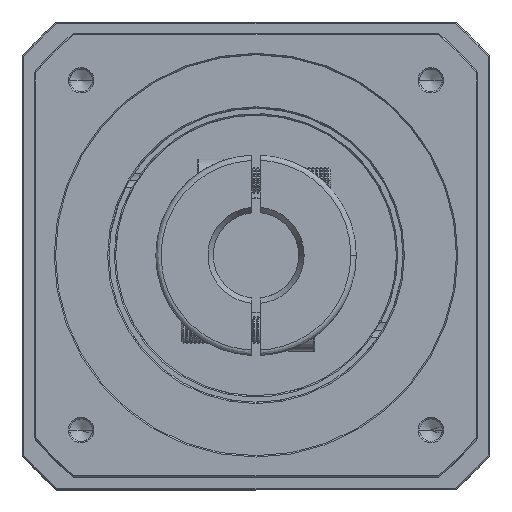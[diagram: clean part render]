
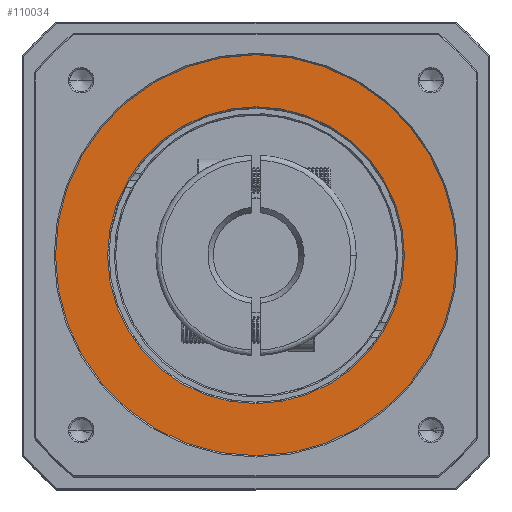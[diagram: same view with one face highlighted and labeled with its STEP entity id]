
A CAD part, top view. The second image highlights one B-rep face of the part: STEP entity #110034.
In plain terms, the highlighted planar face has unit normal (0, 0, 1).
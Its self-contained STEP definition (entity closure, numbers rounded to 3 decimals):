
#547 = CARTESIAN_POINT ( 'NONE',  ( -162.479, 83.421, 22.621 ) ) ;
#4756 = VERTEX_POINT ( 'NONE', #38361 ) ;
#5422 = DIRECTION ( 'NONE',  ( 1., 0., 0. ) ) ;
#9750 = ORIENTED_EDGE ( 'NONE', *, *, #54659, .T. ) ;
#11947 = CIRCLE ( 'NONE', #12220, 75. ) ;
#12220 = AXIS2_PLACEMENT_3D ( 'NONE', #58070, #106746, #88097 ) ;
#13351 = ORIENTED_EDGE ( 'NONE', *, *, #116811, .T. ) ;
#14993 = ORIENTED_EDGE ( 'NONE', *, *, #89933, .T. ) ;
#16094 = EDGE_LOOP ( 'NONE', ( #24689, #9750 ) ) ;
#17975 = DIRECTION ( 'NONE',  ( 1., 0., 0. ) ) ;
#21074 = AXIS2_PLACEMENT_3D ( 'NONE', #97662, #106767, #17975 ) ;
#24689 = ORIENTED_EDGE ( 'NONE', *, *, #69753, .T. ) ;
#25794 = CIRCLE ( 'NONE', #123986, 55.5 ) ;
#26777 = CARTESIAN_POINT ( 'NONE',  ( -31.979, 83.421, 22.621 ) ) ;
#28715 = FACE_BOUND ( 'NONE', #16094, .T. ) ;
#38361 = CARTESIAN_POINT ( 'NONE',  ( -142.979, 83.421, 22.621 ) ) ;
#40394 = DIRECTION ( 'NONE',  ( 0., 0., -1. ) ) ;
#45903 = CIRCLE ( 'NONE', #59537, 75. ) ;
#50409 = AXIS2_PLACEMENT_3D ( 'NONE', #54647, #64630, #5422 ) ;
#51873 = CIRCLE ( 'NONE', #50409, 55.5 ) ;
#54409 = DIRECTION ( 'NONE',  ( 1., 0., 0. ) ) ;
#54647 = CARTESIAN_POINT ( 'NONE',  ( -87.479, 83.421, 22.621 ) ) ;
#54659 = EDGE_CURVE ( 'NONE', #4756, #75361, #25794, .T. ) ;
#55260 = CARTESIAN_POINT ( 'NONE',  ( -87.479, 83.421, 22.621 ) ) ;
#58070 = CARTESIAN_POINT ( 'NONE',  ( -87.479, 83.421, 22.621 ) ) ;
#59537 = AXIS2_PLACEMENT_3D ( 'NONE', #55260, #125529, #54409 ) ;
#63877 = VERTEX_POINT ( 'NONE', #547 ) ;
#64630 = DIRECTION ( 'NONE',  ( 0., 0., -1. ) ) ;
#65544 = CARTESIAN_POINT ( 'NONE',  ( -12.479, 83.421, 22.621 ) ) ;
#69753 = EDGE_CURVE ( 'NONE', #75361, #4756, #51873, .T. ) ;
#75361 = VERTEX_POINT ( 'NONE', #26777 ) ;
#79429 = DIRECTION ( 'NONE',  ( 1., 0., 0. ) ) ;
#86032 = FACE_OUTER_BOUND ( 'NONE', #124872, .T. ) ;
#88097 = DIRECTION ( 'NONE',  ( 1., 0., 0. ) ) ;
#89933 = EDGE_CURVE ( 'NONE', #114548, #63877, #11947, .T. ) ;
#96798 = PLANE ( 'NONE',  #21074 ) ;
#97662 = CARTESIAN_POINT ( 'NONE',  ( -87.479, 83.421, 22.621 ) ) ;
#106746 = DIRECTION ( 'NONE',  ( 0., 0., 1. ) ) ;
#106767 = DIRECTION ( 'NONE',  ( 0., 0., 1. ) ) ;
#110034 = ADVANCED_FACE ( 'NONE', ( #28715, #86032 ), #96798, .T. ) ;
#114548 = VERTEX_POINT ( 'NONE', #65544 ) ;
#116811 = EDGE_CURVE ( 'NONE', #63877, #114548, #45903, .T. ) ;
#123986 = AXIS2_PLACEMENT_3D ( 'NONE', #127952, #40394, #79429 ) ;
#124872 = EDGE_LOOP ( 'NONE', ( #14993, #13351 ) ) ;
#125529 = DIRECTION ( 'NONE',  ( 0., 0., 1. ) ) ;
#127952 = CARTESIAN_POINT ( 'NONE',  ( -87.479, 83.421, 22.621 ) ) ;
